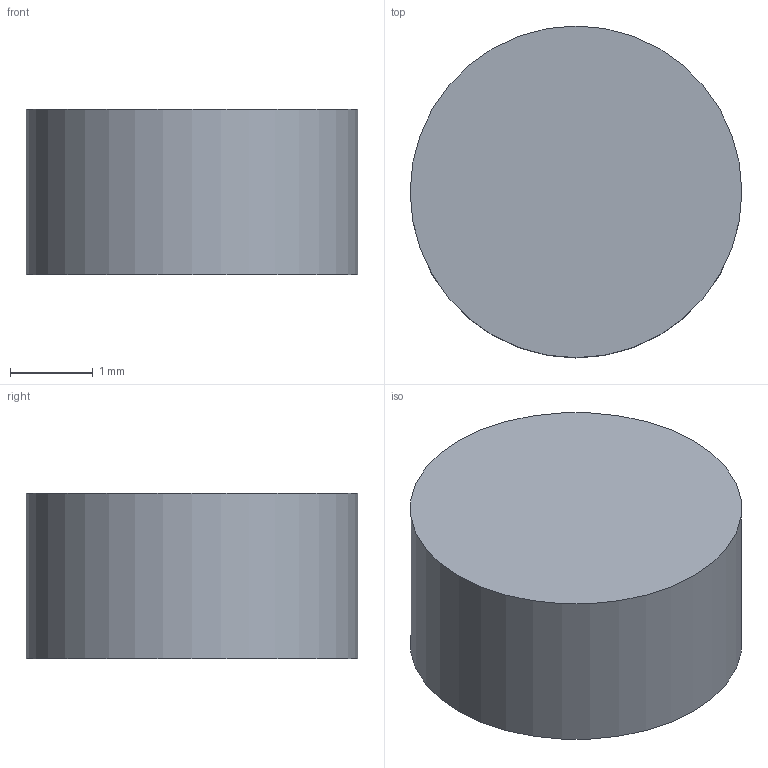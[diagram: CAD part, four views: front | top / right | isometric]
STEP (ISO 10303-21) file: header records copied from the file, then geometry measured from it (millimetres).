
FILE_DESCRIPTION(('Open CASCADE Model'),'2;1');
FILE_NAME('Open CASCADE Shape Model','2026-10-06T03:35:42',('Author'),( 'Open CASCADE'),'Open CASCADE STEP processor 7.8','Open CASCADE 7.8' ,'Unknown');
FILE_SCHEMA(('AUTOMOTIVE_DESIGN { 1 0 10303 214 1 1 1 1 }'));
Length unit declared in the file: millimetre
Products named in the file (1): Open CASCADE STEP translator 7.8 59
Bounding box: 4 x 4 x 2 mm (x, y, z)
Volume: 25.1 mm3; surface area: 50.3 mm2
Topology: 1 solids, 1 shells, 3 faces, 3 edges, 2 vertices
Faces by surface type: plane 2, cylinder 1
Full cylindrical faces by diameter (mm): 4 x1
Entity records: 108 total; most frequent: DIRECTION 19, CARTESIAN_POINT 15, AXIS2_PLACEMENT_3D 6, ORIENTED_EDGE 6, PCURVE 6, DEFINITIONAL_REPRESENTATION 6, LINE 5, VECTOR 5
